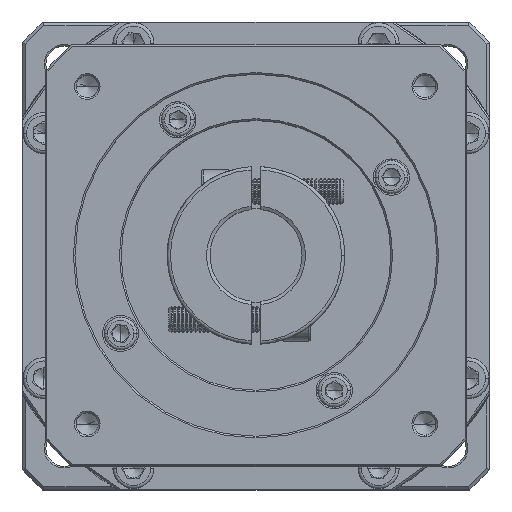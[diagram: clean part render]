
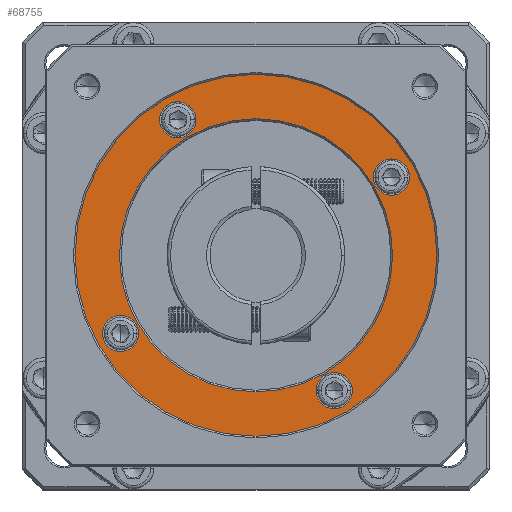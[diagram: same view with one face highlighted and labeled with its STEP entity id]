
A CAD part, top view. The second image highlights one B-rep face of the part: STEP entity #68755.
In plain terms, the highlighted planar face has unit normal (0, 0, 1).
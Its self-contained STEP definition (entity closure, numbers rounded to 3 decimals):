
#549 = AXIS2_PLACEMENT_3D ( 'NONE', #70454, #10251, #41683 ) ;
#1502 = EDGE_CURVE ( 'NONE', #33987, #117235, #35747, .T. ) ;
#8702 = ORIENTED_EDGE ( 'NONE', *, *, #94320, .T. ) ;
#10251 = DIRECTION ( 'NONE',  ( 0., 0., -1. ) ) ;
#10364 = FACE_BOUND ( 'NONE', #114293, .T. ) ;
#11508 = EDGE_LOOP ( 'NONE', ( #85324, #93149 ) ) ;
#12608 = EDGE_CURVE ( 'NONE', #126798, #71551, #114877, .T. ) ;
#13647 = CIRCLE ( 'NONE', #111578, 5.5 ) ;
#15572 = DIRECTION ( 'NONE',  ( 1., 0., 0. ) ) ;
#17031 = DIRECTION ( 'NONE',  ( 0., 0., -1. ) ) ;
#18158 = EDGE_CURVE ( 'NONE', #112900, #68679, #73442, .T. ) ;
#19242 = CIRCLE ( 'NONE', #39437, 55. ) ;
#19637 = ORIENTED_EDGE ( 'NONE', *, *, #22095, .T. ) ;
#20148 = VERTEX_POINT ( 'NONE', #81173 ) ;
#22095 = EDGE_CURVE ( 'NONE', #22123, #20148, #83686, .T. ) ;
#22123 = VERTEX_POINT ( 'NONE', #44573 ) ;
#23583 = CIRCLE ( 'NONE', #112679, 5.5 ) ;
#24126 = CARTESIAN_POINT ( 'NONE',  ( 69.835, -5.576, 182.266 ) ) ;
#26365 = CARTESIAN_POINT ( 'NONE',  ( 28.699, -29.326, 182.266 ) ) ;
#28824 = CARTESIAN_POINT ( 'NONE',  ( 93.585, -46.712, 182.266 ) ) ;
#30110 = DIRECTION ( 'NONE',  ( 0., 0., -1. ) ) ;
#30128 = AXIS2_PLACEMENT_3D ( 'NONE', #54353, #103669, #121736 ) ;
#30269 = CIRCLE ( 'NONE', #549, 41.5 ) ;
#31926 = CARTESIAN_POINT ( 'NONE',  ( 69.835, -5.576, 182.266 ) ) ;
#32591 = EDGE_LOOP ( 'NONE', ( #84200, #123313 ) ) ;
#32977 = DIRECTION ( 'NONE',  ( 1., 0., 0. ) ) ;
#33371 = DIRECTION ( 'NONE',  ( 0., 0., -1. ) ) ;
#33803 = CARTESIAN_POINT ( 'NONE',  ( 28.335, -5.576, 182.266 ) ) ;
#33987 = VERTEX_POINT ( 'NONE', #53699 ) ;
#34450 = EDGE_LOOP ( 'NONE', ( #107195, #123294 ) ) ;
#35132 = CARTESIAN_POINT ( 'NONE',  ( 46.085, 35.56, 182.266 ) ) ;
#35713 = VERTEX_POINT ( 'NONE', #59629 ) ;
#35747 = CIRCLE ( 'NONE', #70797, 41.5 ) ;
#36731 = AXIS2_PLACEMENT_3D ( 'NONE', #35132, #17031, #115021 ) ;
#37587 = DIRECTION ( 'NONE',  ( 1., 0., 0. ) ) ;
#39437 = AXIS2_PLACEMENT_3D ( 'NONE', #81327, #61281, #89983 ) ;
#39752 = AXIS2_PLACEMENT_3D ( 'NONE', #28824, #30110, #88051 ) ;
#40500 = DIRECTION ( 'NONE',  ( 0., 0., -1. ) ) ;
#41081 = ORIENTED_EDGE ( 'NONE', *, *, #68184, .T. ) ;
#41683 = DIRECTION ( 'NONE',  ( 1., 0., 0. ) ) ;
#42528 = VERTEX_POINT ( 'NONE', #123040 ) ;
#44255 = CARTESIAN_POINT ( 'NONE',  ( 124.835, -5.576, 182.266 ) ) ;
#44573 = CARTESIAN_POINT ( 'NONE',  ( 34.199, -29.326, 182.266 ) ) ;
#46623 = CARTESIAN_POINT ( 'NONE',  ( 69.835, -5.576, 182.266 ) ) ;
#50550 = CIRCLE ( 'NONE', #30128, 5.5 ) ;
#52047 = FACE_BOUND ( 'NONE', #11508, .T. ) ;
#52791 = CARTESIAN_POINT ( 'NONE',  ( 110.971, 18.174, 182.266 ) ) ;
#53699 = CARTESIAN_POINT ( 'NONE',  ( 111.335, -5.576, 182.266 ) ) ;
#54353 = CARTESIAN_POINT ( 'NONE',  ( 93.585, -46.712, 182.266 ) ) ;
#55424 = CARTESIAN_POINT ( 'NONE',  ( 40.585, 35.56, 182.266 ) ) ;
#56102 = CIRCLE ( 'NONE', #100258, 5.5 ) ;
#59629 = CARTESIAN_POINT ( 'NONE',  ( 116.471, 18.174, 182.266 ) ) ;
#60514 = VERTEX_POINT ( 'NONE', #108327 ) ;
#60677 = CARTESIAN_POINT ( 'NONE',  ( 110.971, 18.174, 182.266 ) ) ;
#61281 = DIRECTION ( 'NONE',  ( 0., 0., 1. ) ) ;
#61342 = ORIENTED_EDGE ( 'NONE', *, *, #87849, .T. ) ;
#62586 = DIRECTION ( 'NONE',  ( 1., 0., 0. ) ) ;
#64096 = DIRECTION ( 'NONE',  ( 1., 0., 0. ) ) ;
#64939 = DIRECTION ( 'NONE',  ( 0., 0., 1. ) ) ;
#65876 = DIRECTION ( 'NONE',  ( 0., 0., -1. ) ) ;
#68184 = EDGE_CURVE ( 'NONE', #60514, #42528, #50550, .T. ) ;
#68679 = VERTEX_POINT ( 'NONE', #119965 ) ;
#68755 = ADVANCED_FACE ( 'NONE', ( #74912, #52047, #104177, #90371, #94919, #10364 ), #122480, .T. ) ;
#70121 = DIRECTION ( 'NONE',  ( 1., 0., 0. ) ) ;
#70454 = CARTESIAN_POINT ( 'NONE',  ( 69.835, -5.576, 182.266 ) ) ;
#70797 = AXIS2_PLACEMENT_3D ( 'NONE', #46623, #76134, #37587 ) ;
#70801 = CARTESIAN_POINT ( 'NONE',  ( 51.585, 35.56, 182.266 ) ) ;
#71551 = VERTEX_POINT ( 'NONE', #55424 ) ;
#72410 = DIRECTION ( 'NONE',  ( 0., 0., -1. ) ) ;
#73442 = CIRCLE ( 'NONE', #119844, 55. ) ;
#73791 = EDGE_CURVE ( 'NONE', #20148, #22123, #23583, .T. ) ;
#73895 = VERTEX_POINT ( 'NONE', #125130 ) ;
#74912 = FACE_OUTER_BOUND ( 'NONE', #34450, .T. ) ;
#76134 = DIRECTION ( 'NONE',  ( 0., 0., -1. ) ) ;
#77042 = AXIS2_PLACEMENT_3D ( 'NONE', #24126, #64939, #64096 ) ;
#80312 = CARTESIAN_POINT ( 'NONE',  ( 46.085, 35.56, 182.266 ) ) ;
#81173 = CARTESIAN_POINT ( 'NONE',  ( 23.199, -29.326, 182.266 ) ) ;
#81327 = CARTESIAN_POINT ( 'NONE',  ( 69.835, -5.576, 182.266 ) ) ;
#83686 = CIRCLE ( 'NONE', #126985, 5.5 ) ;
#84200 = ORIENTED_EDGE ( 'NONE', *, *, #94312, .T. ) ;
#85324 = ORIENTED_EDGE ( 'NONE', *, *, #1502, .T. ) ;
#87849 = EDGE_CURVE ( 'NONE', #42528, #60514, #122484, .T. ) ;
#88051 = DIRECTION ( 'NONE',  ( 1., 0., 0. ) ) ;
#89983 = DIRECTION ( 'NONE',  ( 1., 0., 0. ) ) ;
#90371 = FACE_BOUND ( 'NONE', #116119, .T. ) ;
#91760 = CARTESIAN_POINT ( 'NONE',  ( 28.699, -29.326, 182.266 ) ) ;
#91964 = DIRECTION ( 'NONE',  ( 1., 0., 0. ) ) ;
#93149 = ORIENTED_EDGE ( 'NONE', *, *, #115389, .T. ) ;
#94312 = EDGE_CURVE ( 'NONE', #35713, #73895, #110577, .T. ) ;
#94320 = EDGE_CURVE ( 'NONE', #71551, #126798, #13647, .T. ) ;
#94919 = FACE_BOUND ( 'NONE', #97943, .T. ) ;
#96213 = EDGE_CURVE ( 'NONE', #73895, #35713, #56102, .T. ) ;
#97943 = EDGE_LOOP ( 'NONE', ( #124836, #8702 ) ) ;
#100258 = AXIS2_PLACEMENT_3D ( 'NONE', #52791, #33371, #62586 ) ;
#100601 = DIRECTION ( 'NONE',  ( 0., 0., 1. ) ) ;
#100993 = DIRECTION ( 'NONE',  ( 1., 0., 0. ) ) ;
#103669 = DIRECTION ( 'NONE',  ( 0., 0., -1. ) ) ;
#104177 = FACE_BOUND ( 'NONE', #32591, .T. ) ;
#107195 = ORIENTED_EDGE ( 'NONE', *, *, #18158, .T. ) ;
#108327 = CARTESIAN_POINT ( 'NONE',  ( 88.085, -46.712, 182.266 ) ) ;
#110468 = DIRECTION ( 'NONE',  ( 0., 0., -1. ) ) ;
#110577 = CIRCLE ( 'NONE', #118141, 5.5 ) ;
#111578 = AXIS2_PLACEMENT_3D ( 'NONE', #80312, #40500, #70121 ) ;
#112679 = AXIS2_PLACEMENT_3D ( 'NONE', #26365, #65876, #15572 ) ;
#112900 = VERTEX_POINT ( 'NONE', #44255 ) ;
#114293 = EDGE_LOOP ( 'NONE', ( #19637, #127055 ) ) ;
#114877 = CIRCLE ( 'NONE', #36731, 5.5 ) ;
#115021 = DIRECTION ( 'NONE',  ( 1., 0., 0. ) ) ;
#115389 = EDGE_CURVE ( 'NONE', #117235, #33987, #30269, .T. ) ;
#115955 = EDGE_CURVE ( 'NONE', #68679, #112900, #19242, .T. ) ;
#116119 = EDGE_LOOP ( 'NONE', ( #61342, #41081 ) ) ;
#117235 = VERTEX_POINT ( 'NONE', #33803 ) ;
#118141 = AXIS2_PLACEMENT_3D ( 'NONE', #60677, #110468, #100993 ) ;
#119844 = AXIS2_PLACEMENT_3D ( 'NONE', #31926, #100601, #91964 ) ;
#119965 = CARTESIAN_POINT ( 'NONE',  ( 14.835, -5.576, 182.266 ) ) ;
#121736 = DIRECTION ( 'NONE',  ( 1., 0., 0. ) ) ;
#122480 = PLANE ( 'NONE',  #77042 ) ;
#122484 = CIRCLE ( 'NONE', #39752, 5.5 ) ;
#123040 = CARTESIAN_POINT ( 'NONE',  ( 99.085, -46.712, 182.266 ) ) ;
#123294 = ORIENTED_EDGE ( 'NONE', *, *, #115955, .T. ) ;
#123313 = ORIENTED_EDGE ( 'NONE', *, *, #96213, .T. ) ;
#124836 = ORIENTED_EDGE ( 'NONE', *, *, #12608, .T. ) ;
#125130 = CARTESIAN_POINT ( 'NONE',  ( 105.471, 18.174, 182.266 ) ) ;
#126798 = VERTEX_POINT ( 'NONE', #70801 ) ;
#126985 = AXIS2_PLACEMENT_3D ( 'NONE', #91760, #72410, #32977 ) ;
#127055 = ORIENTED_EDGE ( 'NONE', *, *, #73791, .T. ) ;
